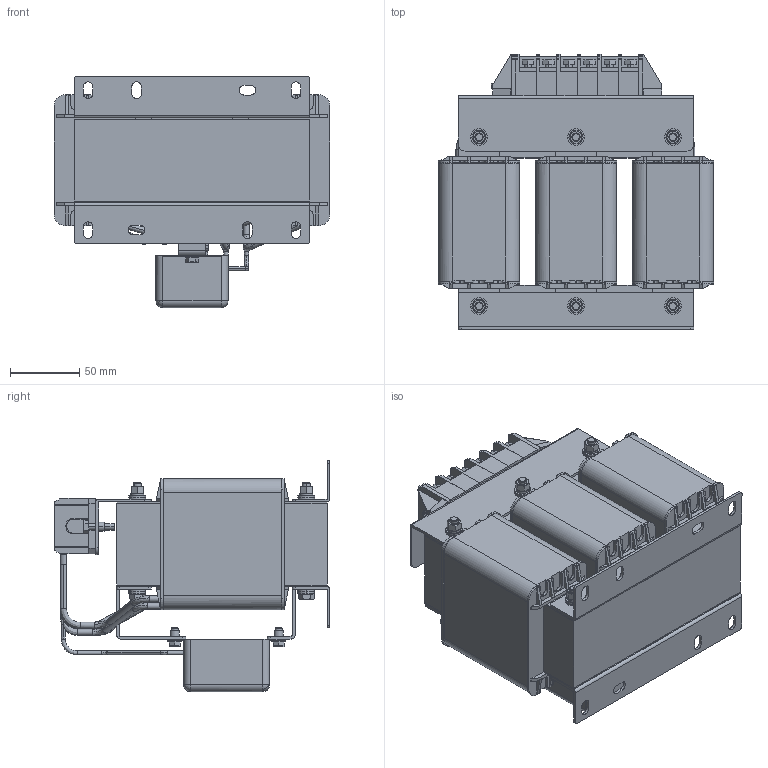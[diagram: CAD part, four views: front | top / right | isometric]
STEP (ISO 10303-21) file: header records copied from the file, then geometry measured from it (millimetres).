
FILE_DESCRIPTION (( 'STEP AP203' ), '1' );
FILE_NAME ('婰錪襝 dU_dT _ IDUDT-30_36-6.STEP', '2026-05-05T13:02:06', ( '' ), ( '' ), 'SwSTEP 2.0', 'SolidWorks 2021', '' );
FILE_SCHEMA (( 'CONFIG_CONTROL_DESIGN' ));
Length unit declared in the file: millimetre
Products named in the file (116): 端子PW8-06-02+线耳）_35; 端子PW8-06-02+线耳）_51; 端子PW8-06-02+线耳）_10; 端子PW8-06-02+线耳）_41; G30｡ﾁ60｡ﾁ90-2_7; G30｡ﾁ60｡ﾁ90-2; 端子PW8-06-02+线耳）_7; 端子PW8-06-02+线耳）_16; 端子PW8-06-02+线耳）_46; G30｡ﾁ60｡ﾁ90-2_4; 端子PW8-06-02+线耳）_32; 端子PW8-06-02+线耳）_20; G30｡ﾁ60｡ﾁ90-2_1; 婰錪襝 dU_dT _ IDUDT-30_36-6; 端子PW8-06-02+线耳）_5; 22kW-萇蕨ん竘盄_1; 端子PW8-06-02+线耳）_40; 22kW-萇蕨ん竘盄; 端子PW8-06-02+线耳）_57; G30｡ﾁ60｡ﾁ90-2_16; G30｡ﾁ60｡ﾁ90-2_11; 端子PW8-06-02+线耳）_29; 端子PW8-06-02+线耳）_36; 端子PW8-06-02+线耳）_61; 端子PW8-06-02+线耳）_17; 端子PW8-06-02+线耳）_58; 22kW-萇蕨ん竘盄_4; 电容引线-18.5KW; 端子PW8-06-02+线耳）_9; 端子PW8-06-02+线耳）_54; 端子PW8-06-02+线耳）_44; 端子PW8-06-02+线耳）_48; 下夹件-170×27×30-通; G30｡ﾁ60｡ﾁ90-2_10; G30｡ﾁ60｡ﾁ90-2_8; 端子PW8-06-02+线耳）_38; 端子PW8-06-02+线耳）_34; 端子PW8-06-02+线耳）_53; 电容盒-SKS-0901.601-LJ-A2; G30｡ﾁ60｡ﾁ90-2_6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
Assembly tree (145 placements, depth 3):
  婰錪襝 dU_dT _ IDUDT-30_36-6
    三相铁芯170-30-59-H152
    嶺啣沭30-152  x6
    狟標璃-170℅30--
    下夹件-170×27×30-通
    奻標璃170-30+傷赽PW8-06-02
    M6螺母+双平垫+弹垫  x6
      M6螺母+双平垫+弹垫_1
      M6螺母+双平垫+弹垫_2
      M6螺母+双平垫+弹垫
      M6螺母+双平垫+弹垫_3
    M6｡ﾁ80+2ﾆｽ
      plain washers--product grade c gb_GB_FASTENER_WASHER_SMWC 6  x2
      M6℅80蹟裝
    M6｡ﾁ80+2ﾆｽ_1
      plain washers--product grade c gb_GB_FASTENER_WASHER_SMWC 6  x2
      M6℅80蹟裝
    M6｡ﾁ80+2ﾆｽ_2
      plain washers--product grade c gb_GB_FASTENER_WASHER_SMWC 6  x2
      M6℅80蹟裝
    M6｡ﾁ80+2ﾆｽ_3
      plain washers--product grade c gb_GB_FASTENER_WASHER_SMWC 6  x2
      M6℅80蹟裝
    M6｡ﾁ80+2ﾆｽ_4
      plain washers--product grade c gb_GB_FASTENER_WASHER_SMWC 6  x2
      M6℅80蹟裝
    M6｡ﾁ80+2ﾆｽ_5
      plain washers--product grade c gb_GB_FASTENER_WASHER_SMWC 6  x2
      M6℅80蹟裝
    端子PW8-06-02+线耳）
      端子PW8-06-02+线耳）_61
      端子PW8-06-02+线耳）_8
      端子PW8-06-02+线耳）_42
      端子PW8-06-02+线耳）_55
      端子PW8-06-02+线耳）_34
      端子PW8-06-02+线耳）_37
      端子PW8-06-02+线耳）_47
      端子PW8-06-02+线耳）_60
      端子PW8-06-02+线耳）_6
      端子PW8-06-02+线耳）_36
      端子PW8-06-02+线耳）_2
      端子PW8-06-02+线耳）
      端子PW8-06-02+线耳）_46
      端子PW8-06-02+线耳）_4
      端子PW8-06-02+线耳）_16
      端子PW8-06-02+线耳）_32
      端子PW8-06-02+线耳）_3
      端子PW8-06-02+线耳）_27
      端子PW8-06-02+线耳）_30
      端子PW8-06-02+线耳）_7
      端子PW8-06-02+线耳）_29
      端子PW8-06-02+线耳）_10
      端子PW8-06-02+线耳）_17
      端子PW8-06-02+线耳）_49
      端子PW8-06-02+线耳）_13
      端子PW8-06-02+线耳）_43
      端子PW8-06-02+线耳）_40
      端子PW8-06-02+线耳）_44
      端子PW8-06-02+线耳）_45
      端子PW8-06-02+线耳）_53
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Bounding box: 199 x 199 x 167 mm (x, y, z)
Volume: 2391060.7 mm3; surface area: 529114.1 mm2
Topology: 179 solids, 179 shells, 2680 faces, 6767 edges, 4491 vertices
Faces by surface type: plane 1736, cylinder 725, cone 160, bspline 54, sphere 5
Entity records: 64756 total; most frequent: CARTESIAN_POINT 11511, ORIENTED_EDGE 8308, DIRECTION 8196, EDGE_CURVE 4154, LINE 2852, VECTOR 2852, VERTEX_POINT 2769, AXIS2_PLACEMENT_3D 2672
